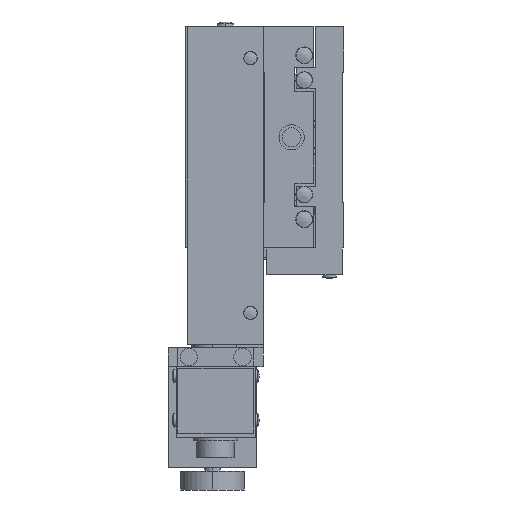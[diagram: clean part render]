
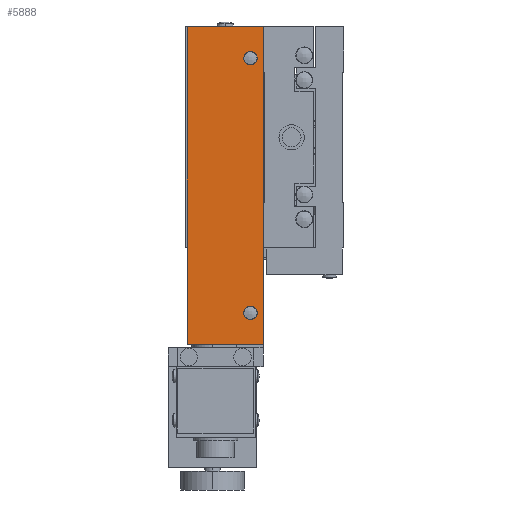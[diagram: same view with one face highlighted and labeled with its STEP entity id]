
A CAD part, left-side view. The second image highlights one B-rep face of the part: STEP entity #5888.
In plain terms, the highlighted planar face has unit normal (-1, 0, 0).
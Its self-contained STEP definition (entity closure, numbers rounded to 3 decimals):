
#4146 = VERTEX_POINT ( 'NONE', #11230 ) ;
#4179 = VERTEX_POINT ( 'NONE', #11290 ) ;
#4180 = VERTEX_POINT ( 'NONE', #11289 ) ;
#4182 = EDGE_CURVE ( 'NONE', #4179, #4180, #11286, .T. ) ;
#4195 = VERTEX_POINT ( 'NONE', #11321 ) ;
#4196 = EDGE_CURVE ( 'NONE', #4146, #4195, #11285, .T. ) ;
#5131 = VERTEX_POINT ( 'NONE', #13519 ) ;
#5135 = EDGE_CURVE ( 'NONE', #5131, #5158, #13495, .T. ) ;
#5158 = VERTEX_POINT ( 'NONE', #13527 ) ;
#5730 = VERTEX_POINT ( 'NONE', #14523 ) ;
#5763 = EDGE_CURVE ( 'NONE', #5131, #5730, #14590, .T. ) ;
#5829 = ORIENTED_EDGE ( 'NONE', *, *, #5956, .F. ) ;
#5876 = ORIENTED_EDGE ( 'NONE', *, *, #4196, .F. ) ;
#5888 = ADVANCED_FACE ( 'NONE', ( #14878, #14835, #14880 ), #14834, .T. ) ;
#5889 = ORIENTED_EDGE ( 'NONE', *, *, #4182, .F. ) ;
#5890 = ORIENTED_EDGE ( 'NONE', *, *, #5901, .F. ) ;
#5891 = ORIENTED_EDGE ( 'NONE', *, *, #5903, .T. ) ;
#5892 = EDGE_CURVE ( 'NONE', #5730, #5897, #14877, .T. ) ;
#5893 = ORIENTED_EDGE ( 'NONE', *, *, #5763, .F. ) ;
#5894 = ORIENTED_EDGE ( 'NONE', *, *, #5135, .T. ) ;
#5895 = EDGE_LOOP ( 'NONE', ( #5829, #5876 ) ) ;
#5897 = VERTEX_POINT ( 'NONE', #14890 ) ;
#5901 = EDGE_CURVE ( 'NONE', #4180, #4179, #14935, .T. ) ;
#5903 = EDGE_CURVE ( 'NONE', #5158, #5897, #14931, .T. ) ;
#5904 = EDGE_LOOP ( 'NONE', ( #5905, #5893, #5894, #5891 ) ) ;
#5905 = ORIENTED_EDGE ( 'NONE', *, *, #5892, .F. ) ;
#5906 = EDGE_LOOP ( 'NONE', ( #5890, #5889 ) ) ;
#5956 = EDGE_CURVE ( 'NONE', #4195, #4146, #14986, .T. ) ;
#11230 = CARTESIAN_POINT ( 'NONE',  ( -43.5, 31.65, -10. ) ) ;
#11285 = CIRCLE ( 'NONE', #11318, 2.15 ) ;
#11286 = CIRCLE ( 'NONE', #11348, 2.15 ) ;
#11289 = CARTESIAN_POINT ( 'NONE',  ( -43.5, 27.35, -90.5 ) ) ;
#11290 = CARTESIAN_POINT ( 'NONE',  ( -43.5, 31.65, -90.5 ) ) ;
#11315 = DIRECTION ( 'NONE',  ( 0., -1., 0. ) ) ;
#11316 = DIRECTION ( 'NONE',  ( -1., 0., 0. ) ) ;
#11317 = CARTESIAN_POINT ( 'NONE',  ( -43.5, 29.5, -10. ) ) ;
#11318 = AXIS2_PLACEMENT_3D ( 'NONE', #11317, #11316, #11315 ) ;
#11321 = CARTESIAN_POINT ( 'NONE',  ( -43.5, 27.35, -10. ) ) ;
#11345 = DIRECTION ( 'NONE',  ( 0., -1., 0. ) ) ;
#11346 = DIRECTION ( 'NONE',  ( -1., 0., 0. ) ) ;
#11347 = CARTESIAN_POINT ( 'NONE',  ( -43.5, 29.5, -90.5 ) ) ;
#11348 = AXIS2_PLACEMENT_3D ( 'NONE', #11347, #11346, #11345 ) ;
#13494 = CARTESIAN_POINT ( 'NONE',  ( -43.5, 26., 0. ) ) ;
#13495 = LINE ( 'NONE', #13494, #13555 ) ;
#13519 = CARTESIAN_POINT ( 'NONE',  ( -43.5, 25.5, 0. ) ) ;
#13527 = CARTESIAN_POINT ( 'NONE',  ( -43.5, 49.5, 0. ) ) ;
#13554 = DIRECTION ( 'NONE',  ( 0., 1., 0. ) ) ;
#13555 = VECTOR ( 'NONE', #13554, 1000. ) ;
#14523 = CARTESIAN_POINT ( 'NONE',  ( -43.5, 25.5, -100.5 ) ) ;
#14589 = CARTESIAN_POINT ( 'NONE',  ( -43.5, 25.5, 0. ) ) ;
#14590 = LINE ( 'NONE', #14589, #14662 ) ;
#14661 = DIRECTION ( 'NONE',  ( 0., 0., -1. ) ) ;
#14662 = VECTOR ( 'NONE', #14661, 1000. ) ;
#14834 = PLANE ( 'NONE',  #14887 ) ;
#14835 = FACE_OUTER_BOUND ( 'NONE', #5904, .T. ) ;
#14869 = DIRECTION ( 'NONE',  ( 0., 1., 0. ) ) ;
#14870 = VECTOR ( 'NONE', #14869, 1000. ) ;
#14871 = CARTESIAN_POINT ( 'NONE',  ( -43.5, 26., -100.5 ) ) ;
#14875 = DIRECTION ( 'NONE',  ( 0., -1., 0. ) ) ;
#14877 = LINE ( 'NONE', #14871, #14870 ) ;
#14878 = FACE_BOUND ( 'NONE', #5906, .T. ) ;
#14880 = FACE_BOUND ( 'NONE', #5895, .T. ) ;
#14884 = DIRECTION ( 'NONE',  ( -1., 0., 0. ) ) ;
#14885 = CARTESIAN_POINT ( 'NONE',  ( -43.5, 26., 0. ) ) ;
#14887 = AXIS2_PLACEMENT_3D ( 'NONE', #14885, #14884, #14875 ) ;
#14890 = CARTESIAN_POINT ( 'NONE',  ( -43.5, 49.5, -100.5 ) ) ;
#14923 = DIRECTION ( 'NONE',  ( 0., 0., -1. ) ) ;
#14924 = VECTOR ( 'NONE', #14923, 1000. ) ;
#14927 = DIRECTION ( 'NONE',  ( 0., -1., 0. ) ) ;
#14928 = DIRECTION ( 'NONE',  ( -1., 0., 0. ) ) ;
#14929 = CARTESIAN_POINT ( 'NONE',  ( -43.5, 29.5, -90.5 ) ) ;
#14930 = AXIS2_PLACEMENT_3D ( 'NONE', #14929, #14928, #14927 ) ;
#14931 = LINE ( 'NONE', #14936, #14924 ) ;
#14935 = CIRCLE ( 'NONE', #14930, 2.15 ) ;
#14936 = CARTESIAN_POINT ( 'NONE',  ( -43.5, 49.5, 0. ) ) ;
#14986 = CIRCLE ( 'NONE', #15029, 2.15 ) ;
#15026 = DIRECTION ( 'NONE',  ( 0., -1., 0. ) ) ;
#15027 = DIRECTION ( 'NONE',  ( -1., 0., 0. ) ) ;
#15028 = CARTESIAN_POINT ( 'NONE',  ( -43.5, 29.5, -10. ) ) ;
#15029 = AXIS2_PLACEMENT_3D ( 'NONE', #15028, #15027, #15026 ) ;
